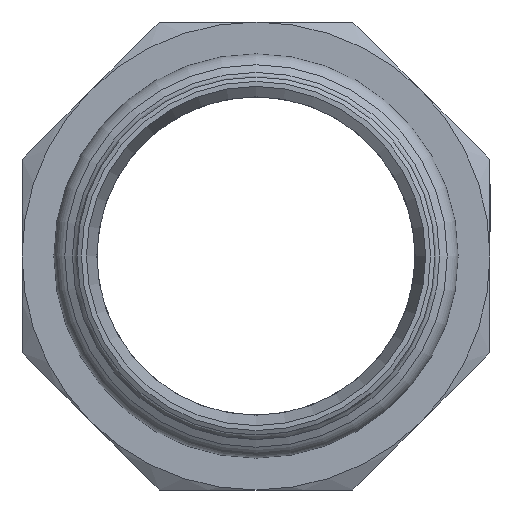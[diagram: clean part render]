
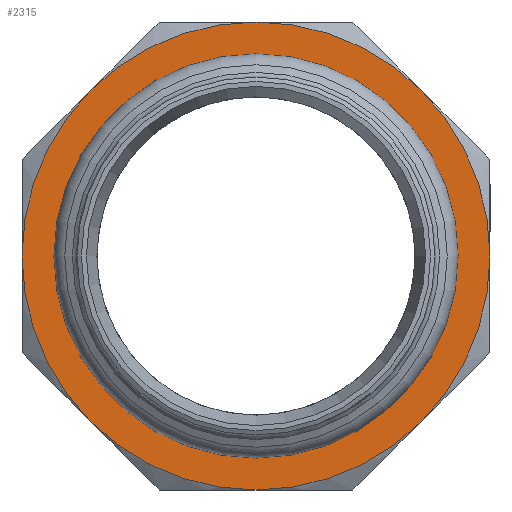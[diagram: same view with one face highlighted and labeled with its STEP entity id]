
A CAD part, left-side view. The second image highlights one B-rep face of the part: STEP entity #2315.
In plain terms, the highlighted planar face has unit normal (-1, 0, 0) as drawn and (0, 0, -1) by its records, which use the part's own axes.
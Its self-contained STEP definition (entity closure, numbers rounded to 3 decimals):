
#1731=CARTESIAN_POINT('',(26.517,26.517,-23.));
#1732=VERTEX_POINT('',#1731);
#1746=CARTESIAN_POINT('',(37.5,0.0,-23.));
#1747=VERTEX_POINT('',#1746);
#1761=CARTESIAN_POINT('',(0.0,0.0,-23.));
#1762=DIRECTION('',(0.0,0.0,-1.0));
#1763=DIRECTION('',(0.0,-1.0,0.0));
#1764=AXIS2_PLACEMENT_3D('',#1761,#1762,#1763);
#1765=CIRCLE('',#1764,37.5);
#1766=EDGE_CURVE('',#1732,#1747,#1765,.T.);
#1778=CARTESIAN_POINT('',(0.0,37.5,-23.));
#1779=VERTEX_POINT('',#1778);
#1806=CARTESIAN_POINT('',(0.0,0.0,-23.));
#1807=DIRECTION('',(0.0,0.0,-1.0));
#1808=DIRECTION('',(0.0,-1.0,0.0));
#1809=AXIS2_PLACEMENT_3D('',#1806,#1807,#1808);
#1810=CIRCLE('',#1809,37.5);
#1811=EDGE_CURVE('',#1779,#1732,#1810,.T.);
#1823=CARTESIAN_POINT('',(-26.517,26.517,-23.));
#1824=VERTEX_POINT('',#1823);
#1851=CARTESIAN_POINT('',(0.0,0.0,-23.));
#1852=DIRECTION('',(0.0,0.0,-1.0));
#1853=DIRECTION('',(0.0,-1.0,0.0));
#1854=AXIS2_PLACEMENT_3D('',#1851,#1852,#1853);
#1855=CIRCLE('',#1854,37.5);
#1856=EDGE_CURVE('',#1824,#1779,#1855,.T.);
#1881=CARTESIAN_POINT('',(-37.5,0.,-23.));
#1882=VERTEX_POINT('',#1881);
#1883=CARTESIAN_POINT('',(0.0,0.0,-23.));
#1884=DIRECTION('',(0.0,0.0,-1.0));
#1885=DIRECTION('',(0.0,-1.0,0.0));
#1886=AXIS2_PLACEMENT_3D('',#1883,#1884,#1885);
#1887=CIRCLE('',#1886,37.5);
#1888=EDGE_CURVE('',#1882,#1824,#1887,.T.);
#1926=CARTESIAN_POINT('',(-26.517,-26.517,-23.));
#1927=VERTEX_POINT('',#1926);
#1928=CARTESIAN_POINT('',(0.0,0.0,-23.));
#1929=DIRECTION('',(0.0,0.0,-1.0));
#1930=DIRECTION('',(0.0,-1.0,0.0));
#1931=AXIS2_PLACEMENT_3D('',#1928,#1929,#1930);
#1932=CIRCLE('',#1931,37.5);
#1933=EDGE_CURVE('',#1927,#1882,#1932,.T.);
#1971=CARTESIAN_POINT('',(0.0,-37.5,-23.));
#1972=VERTEX_POINT('',#1971);
#1973=CARTESIAN_POINT('',(0.0,0.0,-23.));
#1974=DIRECTION('',(0.0,0.0,-1.0));
#1975=DIRECTION('',(0.0,-1.0,0.0));
#1976=AXIS2_PLACEMENT_3D('',#1973,#1974,#1975);
#1977=CIRCLE('',#1976,37.5);
#1978=EDGE_CURVE('',#1972,#1927,#1977,.T.);
#2016=CARTESIAN_POINT('',(26.517,-26.517,-23.));
#2017=VERTEX_POINT('',#2016);
#2018=CARTESIAN_POINT('',(0.0,0.0,-23.));
#2019=DIRECTION('',(0.0,0.0,-1.0));
#2020=DIRECTION('',(0.0,-1.0,0.0));
#2021=AXIS2_PLACEMENT_3D('',#2018,#2019,#2020);
#2022=CIRCLE('',#2021,37.5);
#2023=EDGE_CURVE('',#2017,#1972,#2022,.T.);
#2061=CARTESIAN_POINT('',(0.0,0.0,-23.));
#2062=DIRECTION('',(0.0,0.0,-1.0));
#2063=DIRECTION('',(0.0,-1.0,0.0));
#2064=AXIS2_PLACEMENT_3D('',#2061,#2062,#2063);
#2065=CIRCLE('',#2064,37.5);
#2066=EDGE_CURVE('',#1747,#2017,#2065,.T.);
#2214=CARTESIAN_POINT('',(-29.,0.,-23.));
#2215=VERTEX_POINT('',#2214);
#2216=CARTESIAN_POINT('',(0.0,0.0,-23.));
#2217=DIRECTION('',(0.0,0.0,1.0));
#2218=DIRECTION('',(1.0,0.0,0.0));
#2219=AXIS2_PLACEMENT_3D('',#2216,#2217,#2218);
#2220=CIRCLE('',#2219,29.);
#2221=EDGE_CURVE('',#2215,#2215,#2220,.T.);
#2297=CARTESIAN_POINT('',(0.,0.,-23.));
#2298=DIRECTION('',(0.0,0.0,1.0));
#2299=DIRECTION('',(1.0,0.0,0.0));
#2300=AXIS2_PLACEMENT_3D('',#2297,#2298,#2299);
#2301=PLANE('',#2300);
#2302=ORIENTED_EDGE('',*,*,#2066,.T.);
#2303=ORIENTED_EDGE('',*,*,#2023,.T.);
#2304=ORIENTED_EDGE('',*,*,#1978,.T.);
#2305=ORIENTED_EDGE('',*,*,#1933,.T.);
#2306=ORIENTED_EDGE('',*,*,#1888,.T.);
#2307=ORIENTED_EDGE('',*,*,#1856,.T.);
#2308=ORIENTED_EDGE('',*,*,#1811,.T.);
#2309=ORIENTED_EDGE('',*,*,#1766,.T.);
#2310=EDGE_LOOP('',(#2302,#2303,#2304,#2305,#2306,#2307,#2308,#2309));
#2311=FACE_OUTER_BOUND('',#2310,.T.);
#2312=ORIENTED_EDGE('',*,*,#2221,.T.);
#2313=EDGE_LOOP('',(#2312));
#2314=FACE_BOUND('',#2313,.T.);
#2315=ADVANCED_FACE('',(#2311,#2314),#2301,.F.);
